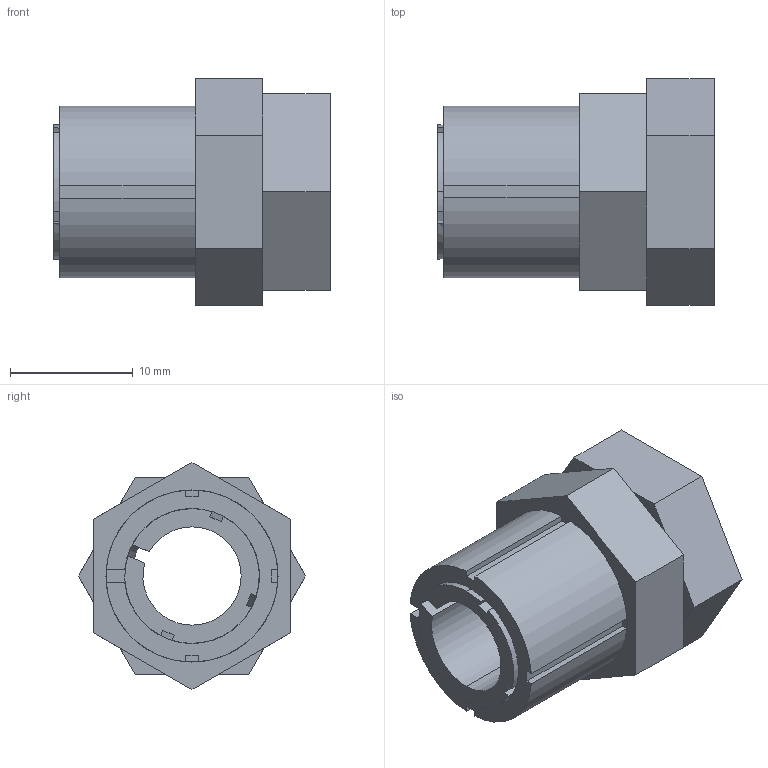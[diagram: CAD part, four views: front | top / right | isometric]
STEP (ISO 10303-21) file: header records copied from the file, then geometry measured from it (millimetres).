
FILE_DESCRIPTION (( 'STEP AP203' ), '1' );
FILE_NAME ('KBS 59 - 8 x 14.STEP', '2015-07-07T21:11:02', ( '' ), ( '' ), 'SwSTEP 2.0', 'SolidWorks 2010', '' );
FILE_SCHEMA (( 'CONFIG_CONTROL_DESIGN' ));
Length unit declared in the file: millimetre
Products named in the file (1): KBS 59 - 8 x 14
Bounding box: 22.5 x 18.48 x 18.48 mm (x, y, z)
Volume: 2818.2 mm3; surface area: 4060.3 mm2
Topology: 3 solids, 3 shells, 82 faces, 216 edges, 140 vertices
Faces by surface type: plane 62, cylinder 14, cone 6
Entity records: 2639 total; most frequent: CARTESIAN_POINT 520, ORIENTED_EDGE 432, DIRECTION 412, EDGE_CURVE 216, LINE 160, VECTOR 160, VERTEX_POINT 140, AXIS2_PLACEMENT_3D 126
